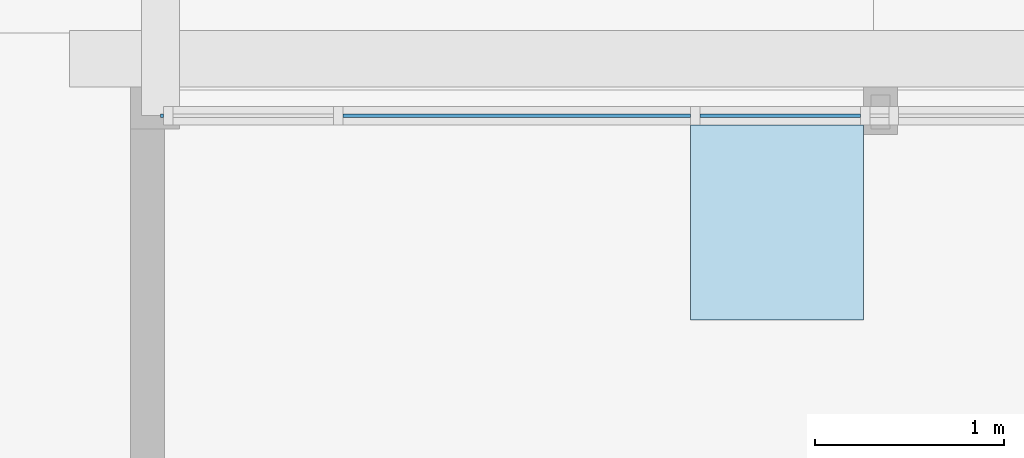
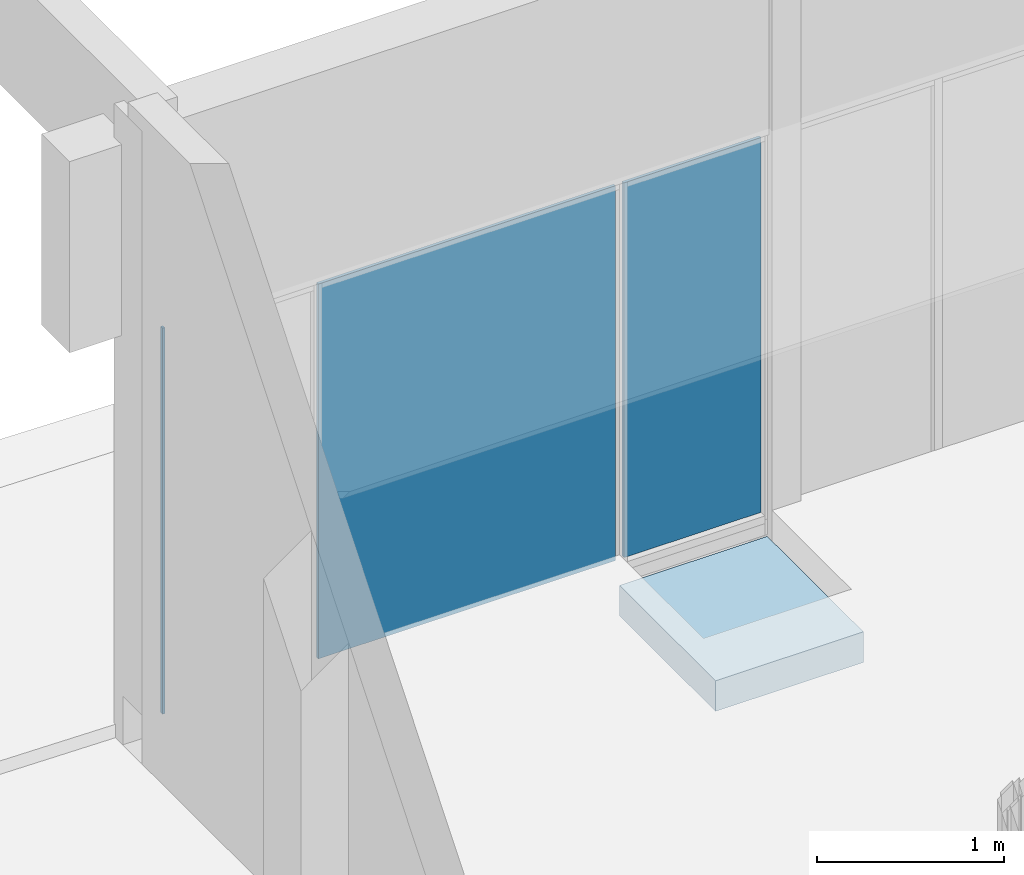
# One storey, part 38 of 117: 3 plates, 1 slab, 1 element without a shape of its own.
"""IFC4 building model written with IfcOpenShell, lengths in metres."""

from ifc_helpers import new_model, entity, si_unit, converted_unit, derived_unit, direction, frame, origin, place, context, subcontext, project, spatial, indexed_curve, outline, extrude, source, transform, mapped, material, type_object, type_shapes, element, aggregate, save


model = new_model("IFC4")

# Units and contexts
model_context = context("Model", 3, precision=1e-05, world=origin(), true_north=direction((6.123031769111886e-17, 1.0)))
body_context = subcontext(model_context, "Body", "Model", "MODEL_VIEW")
ifc_project = project(units=[si_unit("LENGTHUNIT", "METRE"), si_unit("AREAUNIT", "SQUARE_METRE"), si_unit("VOLUMEUNIT", "CUBIC_METRE"), converted_unit("PLANEANGLEUNIT", "DEGREE", entity("IfcRatioMeasure", 0.017453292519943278), si_unit("PLANEANGLEUNIT", "RADIAN"), dimensions=[0, 0, 0, 0, 0, 0, 0]), si_unit("MASSUNIT", "GRAM", prefix="KILO"), derived_unit("MASSDENSITYUNIT", [(si_unit("MASSUNIT", "GRAM", prefix="KILO"), 1), (si_unit("LENGTHUNIT", "METRE"), -3)]), derived_unit("MOMENTOFINERTIAUNIT", [(si_unit("LENGTHUNIT", "METRE"), 4)]), si_unit("TIMEUNIT", "SECOND"), si_unit("FREQUENCYUNIT", "HERTZ"), si_unit("THERMODYNAMICTEMPERATUREUNIT", "DEGREE_CELSIUS"), derived_unit("THERMALTRANSMITTANCEUNIT", [(si_unit("MASSUNIT", "GRAM", prefix="KILO"), 1), (si_unit("THERMODYNAMICTEMPERATUREUNIT", "KELVIN"), -1), (si_unit("TIMEUNIT", "SECOND"), -3)]), derived_unit("VOLUMETRICFLOWRATEUNIT", [(si_unit("LENGTHUNIT", "METRE"), 3), (si_unit("TIMEUNIT", "SECOND"), -1)]), derived_unit("MASSFLOWRATEUNIT", [(si_unit("MASSUNIT", "GRAM", prefix="KILO"), 1), (si_unit("TIMEUNIT", "SECOND"), -1)]), derived_unit("ROTATIONALFREQUENCYUNIT", [(si_unit("TIMEUNIT", "SECOND"), -1)]), si_unit("ELECTRICCURRENTUNIT", "AMPERE"), si_unit("ELECTRICVOLTAGEUNIT", "VOLT"), si_unit("POWERUNIT", "WATT"), si_unit("FORCEUNIT", "NEWTON", prefix="KILO"), si_unit("ILLUMINANCEUNIT", "LUX"), si_unit("LUMINOUSFLUXUNIT", "LUMEN"), si_unit("LUMINOUSINTENSITYUNIT", "CANDELA"), derived_unit("USERDEFINED", [(si_unit("MASSUNIT", "GRAM", prefix="KILO"), -1), (si_unit("LENGTHUNIT", "METRE"), -2), (si_unit("TIMEUNIT", "SECOND"), 3), (si_unit("LUMINOUSFLUXUNIT", "LUMEN"), 1)]), derived_unit("SOUNDPOWERUNIT", [(si_unit("MASSUNIT", "GRAM", prefix="KILO"), 1), (si_unit("LENGTHUNIT", "METRE"), 2), (si_unit("TIMEUNIT", "SECOND"), -3)]), derived_unit("SOUNDPRESSUREUNIT", [(si_unit("MASSUNIT", "GRAM", prefix="KILO"), 1), (si_unit("LENGTHUNIT", "METRE"), -1), (si_unit("TIMEUNIT", "SECOND"), -2)]), derived_unit("LINEARVELOCITYUNIT", [(si_unit("LENGTHUNIT", "METRE"), 1), (si_unit("TIMEUNIT", "SECOND"), -1)]), si_unit("PRESSUREUNIT", "PASCAL"), derived_unit("USERDEFINED", [(si_unit("LENGTHUNIT", "METRE"), -2), (si_unit("MASSUNIT", "GRAM", prefix="KILO"), 1), (si_unit("TIMEUNIT", "SECOND"), -2)]), derived_unit("LINEARFORCEUNIT", [(si_unit("MASSUNIT", "GRAM", prefix="KILO"), 1), (si_unit("LENGTHUNIT", "METRE"), 1), (si_unit("TIMEUNIT", "SECOND"), -2), (si_unit("LENGTHUNIT", "METRE"), -1)]), derived_unit("PLANARFORCEUNIT", [(si_unit("MASSUNIT", "GRAM", prefix="KILO"), 1), (si_unit("LENGTHUNIT", "METRE"), 1), (si_unit("TIMEUNIT", "SECOND"), -2), (si_unit("LENGTHUNIT", "METRE"), -2)])], contexts=[model_context])

# Site, building, storey
site_placement = place(None, origin())
site = spatial("IfcSite", under=ifc_project, at=site_placement, Name="Superficie", CompositionType="ELEMENT")
building_placement = place(site_placement, origin())
building = spatial("IfcBuilding", under=site, at=building_placement, CompositionType="ELEMENT")
storey_placement = place(building_placement, origin())
storey = spatial("IfcBuildingStorey", under=building, at=storey_placement, Name="Nivel 0", CompositionType="ELEMENT", Elevation=0.0)

# Curtain wall, plates
curtain_wall_type = type_object("IfcCurtainWallType", Name="Muro cortina:Muro cortina - simple", PredefinedType="NOTDEFINED")
curtain_wall_placement = place(storey_placement, origin())
curtain_wall = element("IfcCurtainWall", 1, at=curtain_wall_placement, inside=storey, type_object=curtain_wall_type, Name="Muro cortina:Muro cortina - simple", ObjectType="Muro cortina:Muro cortina - simple", PredefinedType="NOTDEFINED")
ifc_material_1 = material(Name="Cristal", Category="Vidrio")
plate_type_1 = type_object("IfcPlateType", Name="Panel de sistema:Acristalado", PredefinedType="CURTAIN_PANEL", material=ifc_material_1)
shared_shape_1 = source(origin(), body_context, "Body", "SweptSolid", [
    extrude(outline(indexed_curve([(-0.01, -0.4250000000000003), (0.01, -0.4250000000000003), (0.01, 0.4250000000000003), (-0.01, 0.4250000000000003), (-0.01, -0.4250000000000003)], self_intersect=False)), frame((0.0, 0.0, 0.0), z_axis=(0.0, 0.0, 1.0), x_axis=(0.0, 1.0, 0.0)), (0.0, 0.0, 1.0), 2.45147709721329),
])
type_shapes(plate_type_1, [shared_shape_1])
plate_1_placement = place(curtain_wall_placement, frame((4.2015520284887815, 12.654548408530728, -0.06147709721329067), z_axis=(0.0, 0.0, 1.0), x_axis=(-1.0, 0.0, 0.0)))
plate_1 = element("IfcPlate", 2, at=plate_1_placement, type_object=plate_type_1, material=ifc_material_1, Name="Panel de sistema:Acristalado", ObjectType="Panel de sistema:Acristalado", PredefinedType="CURTAIN_PANEL", context=body_context, shape_type="MappedRepresentation", body=[
    mapped(shared_shape_1, transform((0.0, 0.0, 0.0), scale=1.0)),
])
plate_type_2 = type_object("IfcPlateType", Name="Panel de sistema:Acristalado", PredefinedType="CURTAIN_PANEL", material=ifc_material_1)
shared_shape_2 = source(origin(), body_context, "Body", "SweptSolid", [
    extrude(outline(indexed_curve([(-0.01, -0.9200000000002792), (0.01, -0.9200000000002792), (0.01, 0.9200000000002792), (-0.01, 0.9200000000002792), (-0.01, -0.9200000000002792)], self_intersect=False)), frame((0.0, 0.0, 0.0), z_axis=(0.0, 0.0, 1.0), x_axis=(0.0, 1.0, 0.0)), (0.0, 0.0, 1.0), 2.45147709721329),
])
type_shapes(plate_type_2, [shared_shape_2])
plate_2_placement = place(curtain_wall_placement, frame((2.8065520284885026, 12.654548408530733, -0.06147709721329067), z_axis=(0.0, 0.0, 1.0), x_axis=(-1.0, 0.0, 0.0)))
plate_2 = element("IfcPlate", 3, at=plate_2_placement, type_object=plate_type_2, material=ifc_material_1, Name="Panel de sistema:Acristalado", ObjectType="Panel de sistema:Acristalado", PredefinedType="CURTAIN_PANEL", context=body_context, shape_type="MappedRepresentation", body=[
    mapped(shared_shape_2, transform((0.0, 0.0, 0.0), scale=1.0)),
])
plate_type_3 = type_object("IfcPlateType", Name="Panel de sistema:Acristalado", PredefinedType="CURTAIN_PANEL", material=ifc_material_1)
shared_shape_3 = source(origin(), body_context, "Body", "SweptSolid", [
    extrude(outline(indexed_curve([(-0.01, -0.00749999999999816), (0.01, -0.00749999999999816), (0.01, 0.00749999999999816), (-0.01, 0.00749999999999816), (-0.01, -0.00749999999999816)], self_intersect=False)), frame((0.0, 0.0, 0.0), z_axis=(0.0, 0.0, 1.0), x_axis=(0.0, 1.0, 0.0)), (0.0, 0.0, 1.0), 2.5264770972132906),
])
type_shapes(plate_type_3, [shared_shape_3])
plate_3_placement = place(curtain_wall_placement, frame((0.9290520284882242, 12.654548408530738, -0.08647709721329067), z_axis=(0.0, 0.0, 1.0), x_axis=(-1.0, 0.0, 0.0)))
plate_3 = element("IfcPlate", 4, at=plate_3_placement, type_object=plate_type_3, material=ifc_material_1, Name="Panel de sistema:Acristalado", ObjectType="Panel de sistema:Acristalado", PredefinedType="CURTAIN_PANEL", context=body_context, shape_type="MappedRepresentation", body=[
    mapped(shared_shape_3, transform((0.0, 0.0, 0.0), scale=1.0)),
])
aggregate(curtain_wall, [plate_1, plate_2, plate_3])

# Slab
ifc_material_2 = material(Name="Suelos por defecto", Category="Genérico")
slab_type = type_object("IfcSlabType", Name="Suelo:Por defecto - 20 cm 2", PredefinedType="FLOOR", material=ifc_material_2)
slab_placement = place(storey_placement, origin())
element("IfcSlab", 5, at=slab_placement, inside=storey, type_object=slab_type, material=ifc_material_2, Name="Suelo:Por defecto - 20 cm 2", ObjectType="Suelo:Por defecto - 20 cm 2", PredefinedType="FLOOR", context=body_context, shape_type="SweptSolid", body=[
    extrude(outline(indexed_curve([(-0.5149999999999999, -0.4575000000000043), (0.5149999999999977, -0.4575000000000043), (0.5149999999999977, 0.4575000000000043), (-0.5149999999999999, 0.4575000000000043), (-0.5149999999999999, -0.4575000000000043)], self_intersect=False)), frame((4.1840520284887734, 12.089548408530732, -0.2), z_axis=(0.0, 0.0, -1.0), x_axis=(0.0, 1.0, 0.0)), (0.0, 0.0, 1.0), 0.2),
])

save(model, "model.ifc")
